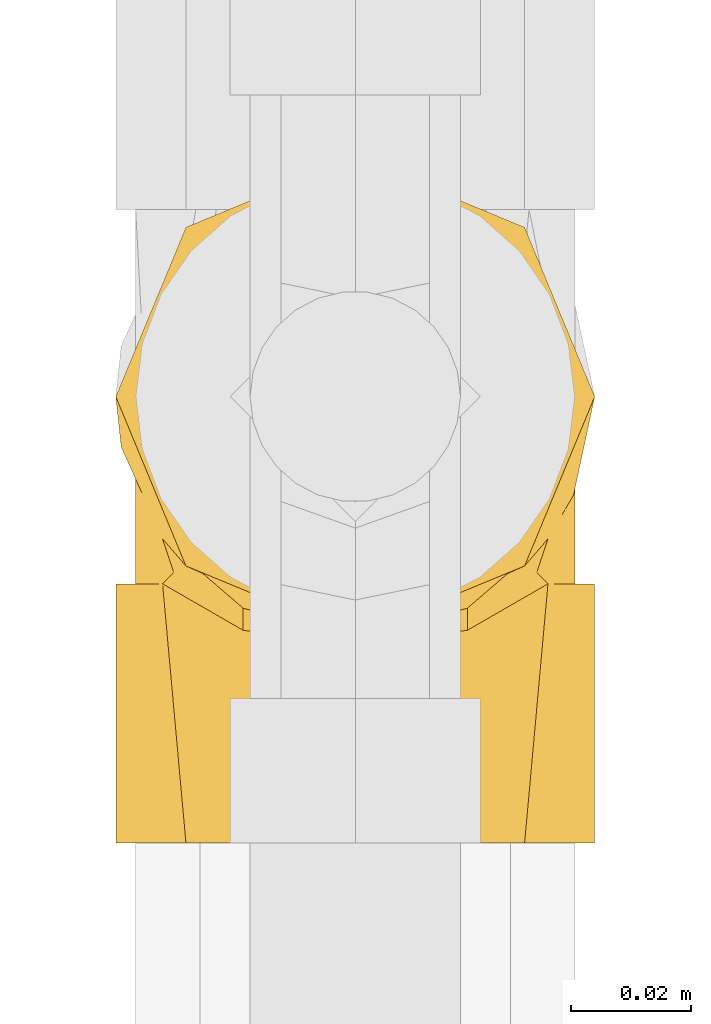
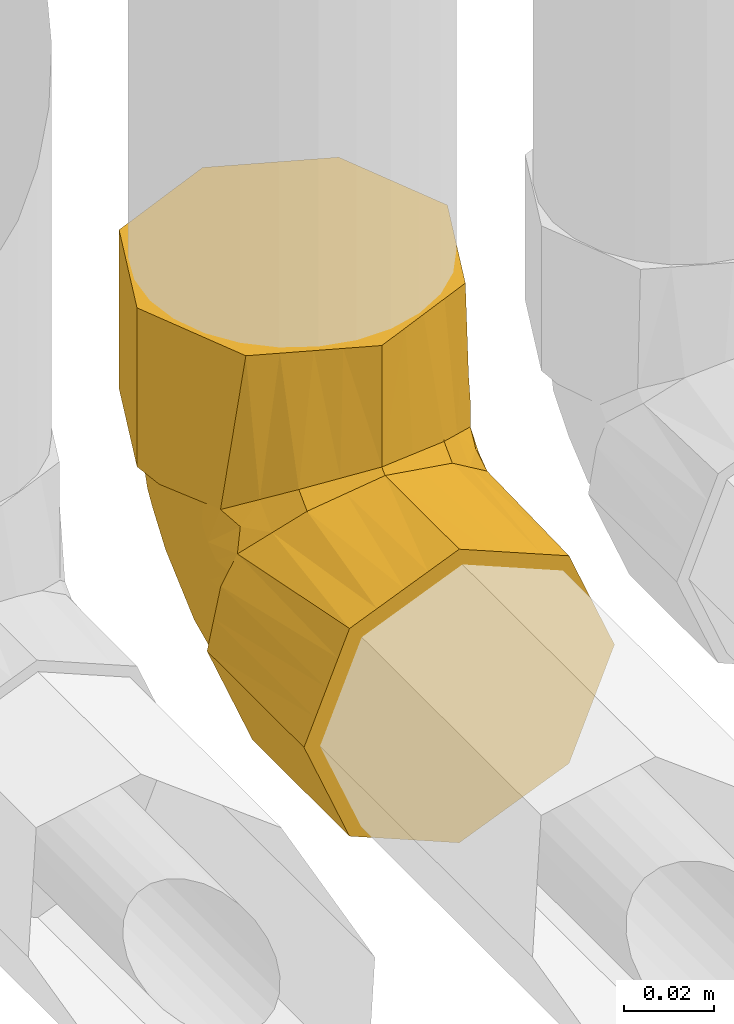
# One storey, part 235 of 652: 1 covering.
"""IFC2X3 building model written with IfcOpenShell, lengths in millimetres."""

from ifc_helpers import new_model, entity, si_unit, converted_unit, direction, frame, origin, place, context, subcontext, project, spatial, faceted_brep, material, type_object, element, save


model = new_model("IFC2X3")

# Units and contexts
model_context = context("Model", 3, precision=0.01, world=frame((0.0, 0.0, 308426.39999999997)), true_north=direction((6.123233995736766e-17, 1.0)))
plan_context = context("Plan", 3, precision=0.01, world=frame((0.0, 0.0, 308426.39999999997)), true_north=direction((6.123233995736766e-17, 1.0)))
body_context = subcontext(model_context, "Body", "Model", "MODEL_VIEW")
ifc_project = project(units=[si_unit("LENGTHUNIT", "METRE", prefix="MILLI"), si_unit("AREAUNIT", "SQUARE_METRE"), si_unit("VOLUMEUNIT", "CUBIC_METRE"), converted_unit("PLANEANGLEUNIT", "DEGREE", entity("IfcPlaneAngleMeasure", 0.017453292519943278), si_unit("PLANEANGLEUNIT", "RADIAN"), dimensions=[0, 0, 0, 0, 0, 0, 0])], contexts=[model_context, plan_context])

# Site, building, storey
site_placement = place(None, origin())
site = spatial("IfcSite", under=ifc_project, at=site_placement, Name="Default", CompositionType="ELEMENT")
building_placement = place(site_placement, origin())
building = spatial("IfcBuilding", under=site, at=building_placement, CompositionType="ELEMENT")
storey_placement = place(building_placement, frame((0.0, 0.0, 1730.6999999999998)))
storey = spatial("IfcBuildingStorey", under=building, at=storey_placement, Name="EG_Produktion_FFB", CompositionType="ELEMENT", Elevation=1730.6999999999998)

# Covering
ifc_material = material(Name="Dämmung - Armaflex-Schlauch")
covering_type = type_object("IfcCoveringType", Name="Rohrdämmung außen:Armaflex-Schlauch", PredefinedType="INSULATION")
covering_placement = place(storey_placement, frame((77638.64672776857, 51563.94410396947, 2358.646727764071)))
element("IfcCovering", 1, at=covering_placement, inside=storey, type_object=covering_type, material=ifc_material, Name="Rohrdämmung außen:Armaflex-Schlauch", ObjectType="Rohrdämmung außen:Armaflex-Schlauch", PredefinedType="INSULATION", context=body_context, shape_type="Brep", body=[
    faceted_brep([(6.083537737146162, 43.00574999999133, 55.29344606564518), (5.617026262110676, 43.00574999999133, 51.30566939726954), (4.890772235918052, 43.00574999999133, 45.09759303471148), (8.331864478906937, 43.00574999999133, 37.46172977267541), (11.772956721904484, 43.00574999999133, 29.8258665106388), (14.99997398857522, 43.00574999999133, 22.66504057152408), (18.22699125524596, 43.00574999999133, 15.504214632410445), (29.790131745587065, 43.00574999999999, 11.253230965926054), (41.35327223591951, 43.00574999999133, 7.002247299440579), (48.56686113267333, 43.00574999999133, 10.651622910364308), (55.78045002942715, 43.00574999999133, 14.300998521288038), (62.99403892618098, 43.00574999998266, 17.950374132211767), (70.2076278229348, 43.00574999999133, 21.599749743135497), (72.58441730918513, 43.00574999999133, 28.940491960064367), (75.20009477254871, 43.00574999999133, 37.01904249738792), (77.81577223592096, 43.00574999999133, 45.09759303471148), (77.08951820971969, 43.00574999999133, 51.305669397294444), (76.62300673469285, 43.00574999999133, 55.29344606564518), (74.98470757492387, 43.00574999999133, 60.125242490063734), (73.34640841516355, 43.00574999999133, 64.9570389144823), (76.78343970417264, 43.00574999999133, 57.339633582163), (80.22047099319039, 43.00574999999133, 49.72222824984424), (81.11127223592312, 43.00574999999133, 41.35327223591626), (77.7993156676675, 43.00574999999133, 33.35750177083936), (75.28884793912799, 43.00574999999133, 27.29669653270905), (72.37763579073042, 43.00574999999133, 20.26840868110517), (69.46642364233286, 43.00574999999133, 13.240120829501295), (62.43813579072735, 43.00574999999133, 10.328908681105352), (55.409847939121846, 43.00574999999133, 7.417696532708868), (48.38156008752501, 43.00574999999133, 4.506484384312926), (41.35327223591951, 43.00574999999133, 1.5952722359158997), (33.35750170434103, 43.00574999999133, 4.907228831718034), (27.29669653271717, 43.00574999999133, 7.417696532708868), (20.268408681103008, 43.00574999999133, 10.328908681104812), (13.240120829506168, 43.00574999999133, 13.240120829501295), (10.328908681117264, 43.00574999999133, 20.26840868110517), (7.417696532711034, 43.00574999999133, 27.296696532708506), (4.907228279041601, 43.00574999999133, 33.35750303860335), (1.5952722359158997, 43.00574999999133, 41.35327223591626), (3.3544632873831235, 43.00574999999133, 49.52928377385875), (5.113654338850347, 43.00574999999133, 57.70529531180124), (9.36013605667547, 43.00574999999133, 64.9570389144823), (7.721836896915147, 43.00574999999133, 60.12524249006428), (69.46642364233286, 0.0, 69.46642364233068), (62.43813579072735, 0.0, 72.37763579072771), (55.409847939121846, 0.0, 75.28884793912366), (49.349042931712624, 0.0, 77.79931557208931), (41.35327223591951, 0.0, 81.11127223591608), (33.357503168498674, 0.0, 77.79931624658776), (27.296696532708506, 0.0, 75.28884793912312), (20.268408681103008, 0.0, 72.37763579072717), (13.240120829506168, 0.0, 69.46642364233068), (10.328908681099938, 0.0, 62.43813579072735), (7.417696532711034, 0.0, 55.40984793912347), (4.50648438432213, 0.0, 48.381560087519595), (1.5952722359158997, 0.0, 41.35327223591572), (4.506484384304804, 0.0, 34.32498438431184), (7.417696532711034, 0.0, 27.296696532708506), (10.328908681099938, 0.0, 20.26840868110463), (13.240120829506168, 0.0, 13.240120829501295), (20.26840868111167, 0.0, 10.328908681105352), (27.29669653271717, 0.0, 7.417696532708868), (34.32498438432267, 0.0, 4.506484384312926), (41.35327223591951, 0.0, 1.5952722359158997), (48.38156008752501, 0.0, 4.506484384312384), (55.409847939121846, 0.0, 7.417696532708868), (62.43813579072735, 0.0, 10.328908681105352), (69.46642364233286, 0.0, 13.240120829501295), (74.48735878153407, 0.0, 25.361730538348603), (77.7993155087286, 0.0, 33.35750138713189), (81.11127223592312, 0.0, 41.35327223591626), (78.20006008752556, 0.0, 48.381560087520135), (75.28884793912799, 0.0, 55.40984793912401), (72.37763579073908, 0.0, 62.43813579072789), (66.64936056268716, 39.14313917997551, 70.72483298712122), (41.35327223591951, 32.88734533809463, 81.11127223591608), (50.65279247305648, 34.08393684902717, 78.80194964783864), (59.952312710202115, 35.280528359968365, 76.49262705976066), (55.3025525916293, 34.68223260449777, 77.64728835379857), (16.057183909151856, 39.14313917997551, 70.72483298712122), (32.05375199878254, 34.08393684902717, 78.80194964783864), (22.754231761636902, 35.280528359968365, 76.49262705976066), (37.04480775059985, 33.44172576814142, 80.04136388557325), (1.5952722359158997, 74.08424999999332, 72.43177223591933), (4.907228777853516, 82.08002040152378, 72.43177223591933), (7.417696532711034, 88.14082570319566, 72.43177223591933), (10.328908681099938, 95.16911355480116, 72.43177223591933), (13.240120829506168, 102.19740140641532, 72.43177223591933), (20.268408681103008, 105.10861355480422, 72.43177223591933), (27.29669653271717, 108.01982570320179, 72.43177223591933), (33.357503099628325, 110.53029398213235, 72.43177223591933), (41.35327223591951, 113.84224999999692, 72.43177223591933), (49.34904239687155, 110.53029355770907, 72.43177223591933), (55.409847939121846, 108.01982570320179, 72.43177223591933), (62.43813579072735, 105.10861355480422, 72.43177223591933), (69.46642364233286, 102.19740140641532, 72.43177223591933), (72.37763579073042, 95.16911355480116, 72.43177223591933), (75.28884793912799, 88.14082570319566, 72.43177223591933), (78.20006008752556, 81.11253785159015, 72.43177223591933), (81.11127223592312, 74.08424999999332, 72.43177223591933), (79.3520811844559, 65.90823846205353, 72.43177223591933), (77.59289013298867, 57.73222692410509, 72.43177223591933), (73.34640841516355, 50.48048332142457, 72.43177223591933), (74.98470757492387, 55.31227974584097, 72.43177223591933), (76.62300673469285, 60.144076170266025, 72.43177223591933), (77.08951812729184, 64.13185213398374, 72.43177223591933), (77.45264518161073, 67.23589066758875, 72.43177223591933), (77.81577223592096, 70.33992920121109, 72.43177223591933), (74.48171748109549, 77.73827380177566, 72.43177223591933), (71.14766272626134, 85.13661840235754, 72.43177223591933), (67.8136079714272, 92.53496300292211, 72.43177223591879), (64.47955321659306, 99.93330760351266, 72.43177223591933), (58.69798297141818, 102.05879943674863, 72.43177223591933), (52.91641272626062, 104.18429126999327, 72.43177223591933), (41.35327223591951, 108.43527493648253, 72.43177223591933), (34.139683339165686, 104.78589932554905, 72.43177223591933), (26.926094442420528, 101.1365237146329, 72.43177223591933), (19.712505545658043, 97.4871481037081, 72.43177223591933), (12.498916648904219, 93.83777249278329, 72.43177223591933), (10.596880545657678, 87.96331166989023, 72.43177223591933), (8.694844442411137, 82.08885084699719, 72.43177223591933), (4.890772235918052, 70.33992920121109, 72.43177223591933), (5.253899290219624, 67.23589066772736, 72.43177223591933), (5.617026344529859, 64.13185213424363, 72.43177223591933), (6.083537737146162, 60.144076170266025, 72.43177223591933), (7.721836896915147, 55.31227974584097, 72.43177223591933), (9.36013605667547, 50.48048332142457, 72.43177223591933), (5.923104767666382, 58.097888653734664, 72.43177223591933), (2.486073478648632, 65.71529398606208, 72.43177223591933), (78.20006008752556, 81.11253785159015, 115.43752223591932), (75.28884793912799, 88.14082570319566, 115.43752223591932), (72.37763579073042, 95.16911355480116, 115.43752223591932), (69.46642364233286, 102.19740140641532, 115.43752223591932), (57.34481362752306, 107.21833667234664, 115.43752223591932), (49.34904293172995, 110.53029333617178, 115.43752223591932), (41.35327223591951, 113.84224999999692, 115.43752223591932), (34.32498438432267, 110.93103785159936, 115.43752223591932), (27.29669653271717, 108.01982570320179, 115.43752223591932), (20.268408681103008, 105.10861355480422, 115.43752223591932), (13.240120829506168, 102.19740140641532, 115.43752223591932), (10.328908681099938, 95.16911355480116, 115.43752223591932), (7.417696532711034, 88.14082570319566, 115.43752223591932), (4.50648438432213, 81.11253785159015, 115.43752223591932), (1.5952722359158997, 74.08424999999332, 115.43752223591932), (4.50648438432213, 67.05596214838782, 115.43752223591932), (7.417696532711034, 60.02767429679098, 115.43752223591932), (10.328908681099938, 52.99938644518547, 115.43752223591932), (13.240120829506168, 45.971098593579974, 115.43752223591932), (20.268408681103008, 43.05988644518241, 115.43752223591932), (27.29669653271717, 40.14867429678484, 115.43752223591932), (33.35750137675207, 37.63820673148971, 115.43752223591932), (41.35327223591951, 34.32624999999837, 115.43752223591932), (49.34904132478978, 37.63820599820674, 115.43752223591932), (55.409847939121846, 40.14867429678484, 115.43752223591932), (62.43813579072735, 43.05988644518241, 115.43752223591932), (69.46642364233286, 45.971098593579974, 115.43752223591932), (72.37763579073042, 52.99938644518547, 115.43752223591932), (75.28884793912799, 60.02767429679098, 115.43752223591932), (77.7993155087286, 66.08847915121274, 115.43752223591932), (81.11127223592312, 74.08424999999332, 115.43752223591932), (41.35327223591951, 34.326249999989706, 82.55017689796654), (50.65279247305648, 36.63557258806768, 81.3535853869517), (59.95231271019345, 38.94489517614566, 80.15699387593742), (49.97020104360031, 36.46606666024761, 81.44141605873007), (66.6493605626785, 44.71268924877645, 76.29438305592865), (16.057183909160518, 44.71268924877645, 76.29438305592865), (32.05375199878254, 36.63557258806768, 81.3535853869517), (22.754231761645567, 38.94489517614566, 80.15699387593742), (32.736343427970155, 36.46606666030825, 81.4414160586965), (37.04480783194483, 35.39615833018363, 81.99579647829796), (70.58570371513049, 87.2456310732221, 57.27953829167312), (70.84194655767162, 59.255379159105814, 29.196562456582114), (74.32849001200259, 64.78568226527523, 39.99677644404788), (77.81577223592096, 54.44461824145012, 51.665813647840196), (77.00211431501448, 57.53683977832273, 44.427643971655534), (76.88844933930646, 69.54060567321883, 55.10574679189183), (68.42603953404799, 78.61273076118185, 40.74800020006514), (65.42597622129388, 63.63300022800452, 24.86974949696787), (41.35327223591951, 91.69909945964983, 37.51558616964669), (49.423246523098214, 97.09379966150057, 46.80229075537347), (49.76955400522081, 80.92903244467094, 27.55975639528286), (41.35327223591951, 55.179087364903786, 14.630582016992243), (50.78343827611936, 61.71355754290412, 14.918451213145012), (62.18567496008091, 81.91063946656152, 36.22638004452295), (77.81577223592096, 68.51539346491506, 70.04816151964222), (77.81577223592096, 66.6908577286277, 67.66455080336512), (77.8157722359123, 63.04178625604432, 62.897329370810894), (77.8157722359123, 58.74320224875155, 57.281571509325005), (65.52092940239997, 92.24225345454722, 54.940238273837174), (59.20806438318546, 71.24210235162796, 24.562664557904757), (60.22410783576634, 57.40923450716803, 17.335133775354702), (58.19488232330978, 92.66510975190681, 45.83903622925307), (55.853767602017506, 84.60868936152, 33.94124595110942), (41.35327223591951, 100.06718719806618, 54.97367920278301), (41.35327223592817, 100.62176107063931, 56.13067021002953), (41.35327223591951, 67.3524247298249, 22.258916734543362), (41.35327223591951, 73.31662804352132, 25.996342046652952), (41.35327223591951, 79.52576209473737, 29.88725145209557), (55.751720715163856, 100.49812847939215, 57.754577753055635), (73.79715375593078, 78.60346314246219, 53.084365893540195), (41.35327223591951, 58.161189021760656, 16.499294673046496), (77.81577223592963, 48.25776996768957, 48.11331321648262), (77.16648559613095, 48.6114223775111, 55.8898031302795), (75.95462844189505, 47.904704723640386, 61.14799943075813), (41.35327223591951, 33.6337159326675, 81.80380630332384), (76.0357200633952, 51.459156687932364, 63.97836606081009), (71.49570768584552, 44.908883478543, 70.52863846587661), (75.95462822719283, 54.28952252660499, 67.53281820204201), (77.15152320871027, 59.518701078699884, 66.9208805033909), (5.540058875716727, 48.6114223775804, 55.88980313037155), (4.890772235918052, 48.25776996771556, 48.1133132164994), (11.210837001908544, 44.90888338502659, 70.52863882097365), (6.670824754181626, 51.45915593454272, 63.97836681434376), (6.7519160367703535, 47.90470469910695, 61.14799943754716), (4.890772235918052, 58.74320224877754, 57.281571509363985), (6.7519162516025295, 54.28952251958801, 67.53281822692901), (5.555021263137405, 59.518701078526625, 66.92088050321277), (4.890772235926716, 66.69085772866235, 67.66455080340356), (4.890772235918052, 54.44461824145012, 51.665813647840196), (4.89077223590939, 68.51539346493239, 70.04816151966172), (4.89077223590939, 63.041786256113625, 62.89732937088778), (7.90055709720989, 59.61186262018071, 37.54867793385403), (11.144292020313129, 58.14792793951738, 29.753616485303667), (6.907352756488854, 76.41301603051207, 58.23539538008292), (31.821832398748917, 83.37405497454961, 30.21968406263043), (16.763579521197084, 79.87091005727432, 38.43788537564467), (9.117077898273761, 74.4438185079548, 47.150672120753), (14.598856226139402, 86.90253298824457, 50.85120006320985), (5.892051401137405, 66.0986310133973, 50.71304963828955), (5.886693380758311, 55.988582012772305, 42.398132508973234), (15.338625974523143, 67.81026209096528, 29.782072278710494), (22.521459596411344, 86.64625364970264, 39.60413641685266), (31.617498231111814, 98.35278997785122, 49.78456672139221), (22.69544496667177, 96.79734628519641, 54.986101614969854), (9.61944594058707, 83.3350649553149, 58.13081411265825), (24.56861790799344, 64.8027936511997, 19.784818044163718), (21.067876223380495, 74.76137203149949, 29.107014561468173), (16.734184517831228, 55.99524376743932, 21.418901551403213), (33.08278710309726, 68.64794002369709, 18.405512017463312)], [[[0, 1, 2, 3, 4, 5, 6, 7, 8, 9, 10, 11, 12, 13, 14, 15, 16, 17, 18, 19, 20, 21, 22, 23, 24, 25, 26, 27, 28, 29, 30, 31, 32, 33, 34, 35, 36, 37, 38, 39, 40, 41, 42]], [[43, 44, 45, 46, 47, 48, 49, 50, 51, 52, 53, 54, 55, 56, 57, 58, 59, 60, 61, 62, 63, 64, 65, 66, 67, 68, 69, 70, 71, 72, 73]], [[44, 43, 74]], [[75, 47, 46]], [[76, 75, 46]], [[45, 77, 78, 76]], [[44, 74, 77]], [[72, 20, 73]], [[71, 21, 72]], [[43, 19, 74]], [[77, 45, 44]], [[72, 21, 20]], [[71, 22, 21]], [[45, 76, 46]], [[71, 70, 22]], [[73, 20, 19]], [[19, 43, 73]], [[23, 22, 70, 69, 68, 67, 26, 25, 24]], [[26, 67, 66, 65, 64, 63, 30, 29, 28, 27]], [[38, 37, 36, 35, 34, 59, 58, 57, 56, 55]], [[30, 63, 62, 61, 60, 59, 34, 33, 32, 31]], [[53, 40, 39]], [[50, 79, 51]], [[39, 54, 53]], [[41, 52, 51]], [[40, 52, 41]], [[80, 49, 48]], [[49, 80, 81]], [[55, 54, 38]], [[48, 75, 82, 80]], [[38, 54, 39]], [[79, 50, 81]], [[52, 40, 53]], [[48, 47, 75]], [[50, 49, 81]], [[79, 41, 51]], [[83, 84, 85, 86, 87, 88, 89, 90, 91, 92, 93, 94, 95, 96, 97, 98, 99, 100, 101, 102, 103, 104, 105, 106, 107, 108, 109, 110, 111, 112, 113, 114, 115, 116, 117, 118, 119, 120, 121, 122, 123, 124, 125, 126, 127, 128]], [[129, 130, 131, 132, 133, 134, 135, 136, 137, 138, 139, 140, 141, 142, 143, 144, 145, 146, 147, 148, 149, 150, 151, 152, 153, 154, 155, 156, 157, 158, 159]], [[135, 134, 133, 132, 95, 94, 93, 92, 91]], [[95, 132, 131, 130, 129, 159, 99, 98, 97, 96]], [[159, 158, 157, 100]], [[101, 156, 102]], [[99, 159, 100]], [[101, 100, 157]], [[152, 151, 160]], [[102, 156, 155]], [[153, 161, 162]], [[161, 153, 152]], [[152, 160, 163, 161]], [[154, 164, 155]], [[164, 154, 162]], [[156, 101, 157]], [[154, 153, 162]], [[164, 102, 155]], [[148, 147, 165]], [[149, 166, 150]], [[166, 149, 167]], [[160, 151, 150]], [[148, 165, 167]], [[145, 127, 146]], [[144, 128, 145]], [[147, 126, 165]], [[167, 149, 148]], [[145, 128, 127]], [[144, 83, 128]], [[150, 166, 168, 169, 160]], [[144, 143, 83]], [[146, 127, 126]], [[126, 147, 146]], [[91, 90, 89, 88, 87, 139, 138, 137, 136, 135]], [[141, 140, 139, 87, 86, 85, 84, 83, 143, 142]], [[109, 170, 110]], [[13, 171, 172]], [[14, 13, 172]], [[173, 174, 175]], [[176, 171, 177]], [[15, 14, 174]], [[178, 179, 180]], [[9, 181, 182]], [[172, 175, 174]], [[13, 12, 171]], [[12, 11, 177]], [[176, 177, 183]], [[175, 107, 184, 185, 186, 187, 173]], [[188, 170, 176]], [[176, 172, 171]], [[189, 190, 182]], [[11, 10, 190]], [[177, 11, 190]], [[170, 188, 110]], [[191, 183, 192]], [[179, 178, 193, 194]], [[182, 190, 10]], [[182, 195, 180]], [[177, 190, 189]], [[182, 10, 9]], [[180, 195, 196, 197, 178]], [[177, 189, 183]], [[177, 171, 12]], [[113, 179, 194]], [[189, 182, 180]], [[112, 111, 198, 113]], [[198, 111, 188]], [[194, 114, 113]], [[179, 191, 192]], [[199, 175, 172]], [[199, 108, 175]], [[172, 176, 199]], [[188, 111, 110]], [[199, 170, 109]], [[183, 188, 176]], [[108, 199, 109]], [[188, 191, 198]], [[108, 107, 175]], [[176, 170, 199]], [[192, 189, 180]], [[188, 183, 191]], [[189, 192, 183]], [[179, 192, 180]], [[181, 9, 8]], [[182, 181, 200, 195]], [[191, 179, 198]], [[179, 113, 198]], [[174, 173, 201, 15]], [[172, 174, 14]], [[173, 202, 201]], [[173, 187, 203]], [[18, 203, 19]], [[201, 17, 16, 15]], [[204, 76, 163]], [[74, 164, 162, 77]], [[163, 76, 78, 77, 162, 161]], [[205, 102, 206]], [[206, 164, 74]], [[106, 105, 104, 185, 184, 107]], [[205, 207, 102]], [[186, 185, 208, 187]], [[204, 75, 76]], [[163, 160, 204]], [[205, 206, 19]], [[164, 206, 102]], [[203, 205, 19]], [[19, 206, 74]], [[201, 202, 17]], [[17, 202, 18]], [[203, 202, 173]], [[18, 202, 203]], [[102, 207, 103]], [[103, 208, 104]], [[207, 205, 187]], [[208, 103, 207]], [[208, 185, 104]], [[187, 208, 207]], [[203, 187, 205]], [[204, 160, 169]], [[209, 210, 0]], [[169, 168, 166, 167, 81, 80, 82]], [[41, 211, 212]], [[1, 0, 210, 2]], [[213, 212, 214]], [[204, 169, 82]], [[79, 165, 211]], [[126, 125, 215]], [[212, 211, 126]], [[204, 82, 75]], [[167, 165, 79, 81]], [[216, 124, 217]], [[218, 209, 213]], [[122, 121, 219, 217, 124, 123]], [[41, 79, 211]], [[211, 165, 126]], [[209, 0, 42]], [[125, 124, 216]], [[126, 215, 212]], [[125, 216, 215]], [[220, 214, 216, 217]], [[213, 42, 41]], [[212, 213, 41]], [[210, 209, 218]], [[214, 212, 215]], [[209, 42, 213]], [[215, 216, 214]], [[218, 213, 214]], [[4, 221, 222]], [[223, 121, 120]], [[224, 178, 197, 196]], [[225, 226, 227]], [[228, 226, 221]], [[229, 218, 228]], [[222, 226, 230]], [[231, 232, 224]], [[3, 229, 221]], [[233, 232, 231]], [[234, 223, 120]], [[229, 2, 210, 218]], [[224, 235, 236]], [[4, 3, 221]], [[228, 218, 214, 220, 217, 219, 121]], [[237, 222, 230]], [[6, 235, 7]], [[235, 6, 237]], [[238, 200, 7]], [[228, 223, 226]], [[224, 238, 235]], [[234, 226, 223]], [[227, 117, 233]], [[193, 232, 115]], [[224, 232, 178]], [[115, 114, 194, 193]], [[235, 237, 236]], [[238, 224, 196]], [[226, 222, 221]], [[222, 237, 5]], [[5, 237, 6]], [[5, 4, 222]], [[237, 230, 236]], [[7, 200, 181, 8]], [[7, 235, 238]], [[238, 196, 195, 200]], [[227, 118, 117]], [[193, 178, 232]], [[231, 236, 225]], [[233, 117, 116]], [[232, 233, 116]], [[227, 233, 231]], [[229, 3, 2]], [[228, 221, 229]], [[121, 223, 228]], [[119, 118, 234, 120]], [[234, 118, 227]], [[227, 226, 234]], [[232, 116, 115]], [[225, 236, 230]], [[224, 236, 231]], [[226, 225, 230]], [[231, 225, 227]]]),
])

save(model, "model.ifc")
